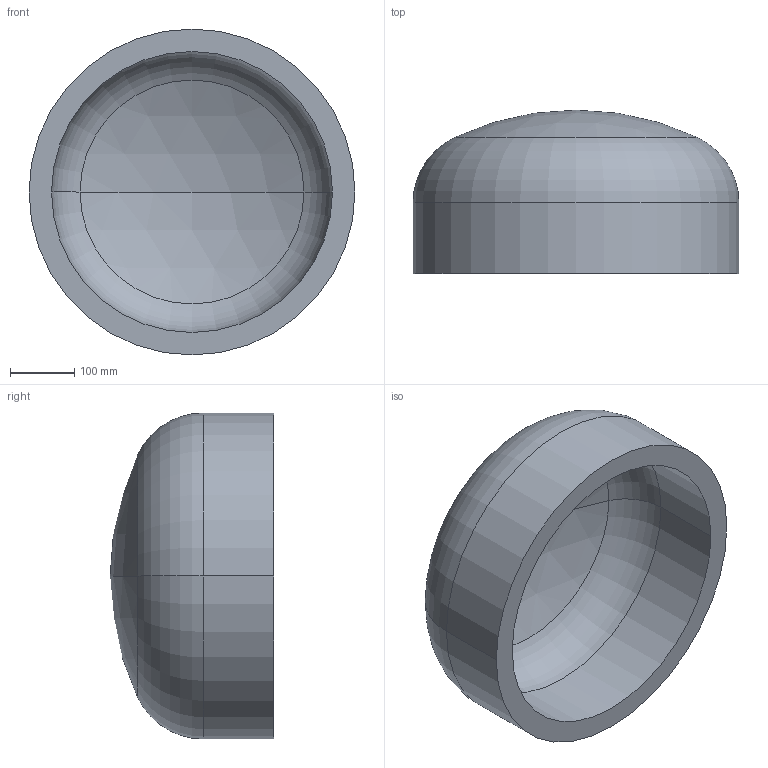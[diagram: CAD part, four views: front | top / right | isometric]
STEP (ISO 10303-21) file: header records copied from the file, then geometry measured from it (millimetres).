
FILE_DESCRIPTION (( 'STEP AP203' ), '1' );
FILE_NAME ('DIN 28013 Korbbogenform_-_Boden DIN 28013 - 508 x 110 - I - s=35.step', '2016-07-01T07:54:16', ( '' ), ( '' ), 'SwSTEP 2.0', 'SolidWorks 2013', '' );
FILE_SCHEMA (( 'CONFIG_CONTROL_DESIGN' ));
Length unit declared in the file: millimetre
Products named in the file (1): DIN 28013 Korbbogenform_-_Boden DIN 28013 - 508 x 110 - I - s=35
Bounding box: 508 x 254.85 x 508 mm (x, y, z)
Volume: 14720243 mm3; surface area: 895731.3 mm2
Topology: 1 solids, 1 shells, 13 faces, 24 edges, 14 vertices
Faces by surface type: torus 4, cylinder 4, sphere 4, plane 1
Entity records: 407 total; most frequent: DIRECTION 72, CARTESIAN_POINT 52, ORIENTED_EDGE 48, AXIS2_PLACEMENT_3D 34, EDGE_CURVE 24, CIRCLE 20, VERTEX_POINT 14, EDGE_LOOP 14
